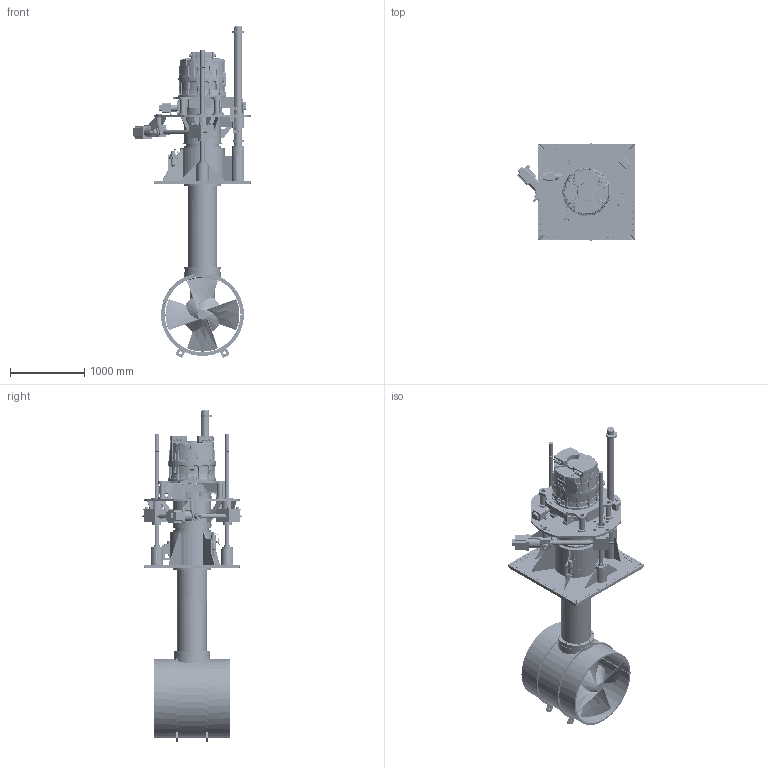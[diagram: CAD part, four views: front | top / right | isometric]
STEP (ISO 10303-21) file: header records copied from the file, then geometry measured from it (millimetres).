
FILE_DESCRIPTION(/* description */ (''),/* implementation_level */ '2;1');
FILE_NAME(/* name */ 'Q:\THRUSTERS\THRUSTER SALES & SUPPORT DOCS\THRUSTER Sales\E-V-R\E-1000-V-R\MODELS\E-1000-V-R-DEPLOYED.stp',/* time_stamp */ '2022-04-06T09:08:47+01:00',/* author */ ('barney.webborn'),/* organization */ (''),/* preprocessor_version */ 'ST-DEVELOPER v18.1',/* originating_system */ 'Autodesk Inventor 2022',/* authorisation */ '');
FILE_SCHEMA (('AUTOMOTIVE_DESIGN { 1 0 10303 214 3 1 1 }'));
Length unit declared in the file: millimetre
Products named in the file (1): E-1000-V-R-1_Simplify_3
Bounding box: 1583.66 x 1332.9 x 4466.65 mm (x, y, z)
Volume: 858630848.7 mm3; surface area: 32162812.8 mm2
Topology: 247 solids, 254 shells, 11830 faces, 29278 edges, 18334 vertices
Faces by surface type: plane 4770, cylinder 2849, bspline 2517, cone 999, torus 413, sphere 282
Full cylindrical faces by diameter (mm): 0.813 x42, 1.118 x42, 1.168 x5, 2.083 x5, 2.459 x1, 3 x5, 3.15 x45, 3.81 x5, 4.134 x1, 4.4 x4, 4.917 x40, 5 x2, 5.459 x4, 6 x65, 6.4 x4, 6.5 x47, 6.647 x58, 6.9 x1, 7 x2, 7.275 x1, 8 x38, 8.2 x12, 8.376 x40, 8.4 x12, 8.5 x7, 8.7 x4, 8.917 x1, 9 x33, 9.2 x1, 10 x52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
Entity records: 537667 total; most frequent: CARTESIAN_POINT 269494, ORIENTED_EDGE 57687, DIRECTION 52560, EDGE_CURVE 28844, AXIS2_PLACEMENT_3D 20174, VERTEX_POINT 18313, EDGE_LOOP 13263, LINE 12212
